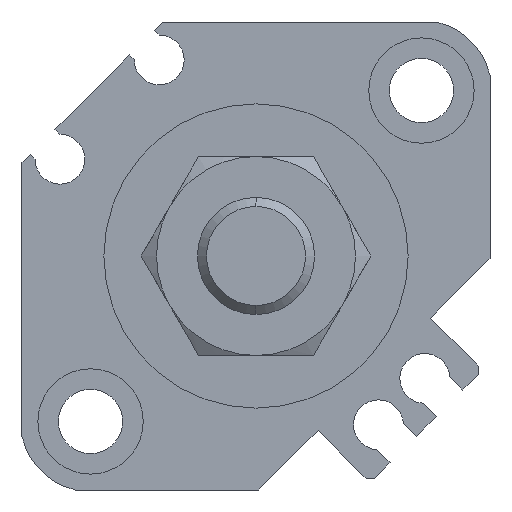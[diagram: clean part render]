
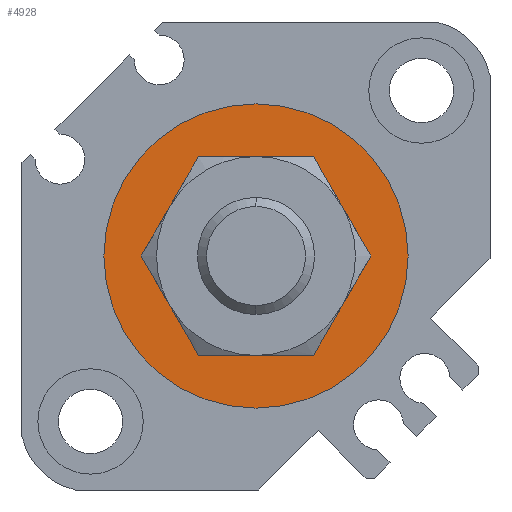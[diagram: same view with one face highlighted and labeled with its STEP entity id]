
A CAD part, left-side view. The second image highlights one B-rep face of the part: STEP entity #4928.
In plain terms, the highlighted planar face has unit normal (-1, 0, 0).
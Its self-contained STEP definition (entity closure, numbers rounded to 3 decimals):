
#168 = DIRECTION ( 'NONE',  ( 1., 0., 0. ) ) ;
#326 = DIRECTION ( 'NONE',  ( 0., 0., -1. ) ) ;
#397 = CARTESIAN_POINT ( 'NONE',  ( 1.9, 0., 0. ) ) ;
#786 = EDGE_CURVE ( 'NONE', #2942, #3691, #3636, .T. ) ;
#808 = DIRECTION ( 'NONE',  ( 0., 1., 0. ) ) ;
#837 = CARTESIAN_POINT ( 'NONE',  ( 1.9, 0., 0. ) ) ;
#850 = EDGE_LOOP ( 'NONE', ( #1054, #4644 ) ) ;
#1038 = CARTESIAN_POINT ( 'NONE',  ( 1.9, 0., 0. ) ) ;
#1054 = ORIENTED_EDGE ( 'NONE', *, *, #786, .T. ) ;
#1174 = CARTESIAN_POINT ( 'NONE',  ( 1.9, 0., -7.5 ) ) ;
#1248 = CARTESIAN_POINT ( 'NONE',  ( 1.9, 0., -13. ) ) ;
#1316 = AXIS2_PLACEMENT_3D ( 'NONE', #3925, #168, #3545 ) ;
#1718 = CARTESIAN_POINT ( 'NONE',  ( 1.9, 0., 13. ) ) ;
#1955 = FACE_BOUND ( 'NONE', #850, .T. ) ;
#1981 = PLANE ( 'NONE',  #3221 ) ;
#1995 = CIRCLE ( 'NONE', #4351, 7.5 ) ;
#2122 = VERTEX_POINT ( 'NONE', #1718 ) ;
#2167 = CIRCLE ( 'NONE', #4771, 13. ) ;
#2537 = EDGE_CURVE ( 'NONE', #3691, #2942, #1995, .T. ) ;
#2591 = CARTESIAN_POINT ( 'NONE',  ( 1.9, 0., 0. ) ) ;
#2754 = DIRECTION ( 'NONE',  ( 1., 0., 0. ) ) ;
#2942 = VERTEX_POINT ( 'NONE', #3023 ) ;
#2946 = DIRECTION ( 'NONE',  ( 1., 0., 0. ) ) ;
#3017 = ORIENTED_EDGE ( 'NONE', *, *, #4415, .F. ) ;
#3023 = CARTESIAN_POINT ( 'NONE',  ( 1.9, 0., 7.5 ) ) ;
#3221 = AXIS2_PLACEMENT_3D ( 'NONE', #397, #4987, #808 ) ;
#3545 = DIRECTION ( 'NONE',  ( 0., 0., -1. ) ) ;
#3636 = CIRCLE ( 'NONE', #4588, 7.5 ) ;
#3642 = EDGE_CURVE ( 'NONE', #2122, #5413, #2167, .T. ) ;
#3691 = VERTEX_POINT ( 'NONE', #1174 ) ;
#3925 = CARTESIAN_POINT ( 'NONE',  ( 1.9, 0., 0. ) ) ;
#4027 = FACE_OUTER_BOUND ( 'NONE', #5068, .T. ) ;
#4254 = DIRECTION ( 'NONE',  ( 0., 0., -1. ) ) ;
#4351 = AXIS2_PLACEMENT_3D ( 'NONE', #837, #4936, #326 ) ;
#4415 = EDGE_CURVE ( 'NONE', #5413, #2122, #4547, .T. ) ;
#4547 = CIRCLE ( 'NONE', #1316, 13. ) ;
#4588 = AXIS2_PLACEMENT_3D ( 'NONE', #2591, #2946, #4254 ) ;
#4644 = ORIENTED_EDGE ( 'NONE', *, *, #2537, .T. ) ;
#4771 = AXIS2_PLACEMENT_3D ( 'NONE', #1038, #2754, #5237 ) ;
#4928 = ADVANCED_FACE ( 'NONE', ( #4027, #1955 ), #1981, .F. ) ;
#4936 = DIRECTION ( 'NONE',  ( 1., 0., 0. ) ) ;
#4987 = DIRECTION ( 'NONE',  ( 1., 0., 0. ) ) ;
#5068 = EDGE_LOOP ( 'NONE', ( #5163, #3017 ) ) ;
#5163 = ORIENTED_EDGE ( 'NONE', *, *, #3642, .F. ) ;
#5237 = DIRECTION ( 'NONE',  ( 0., 0., -1. ) ) ;
#5413 = VERTEX_POINT ( 'NONE', #1248 ) ;
